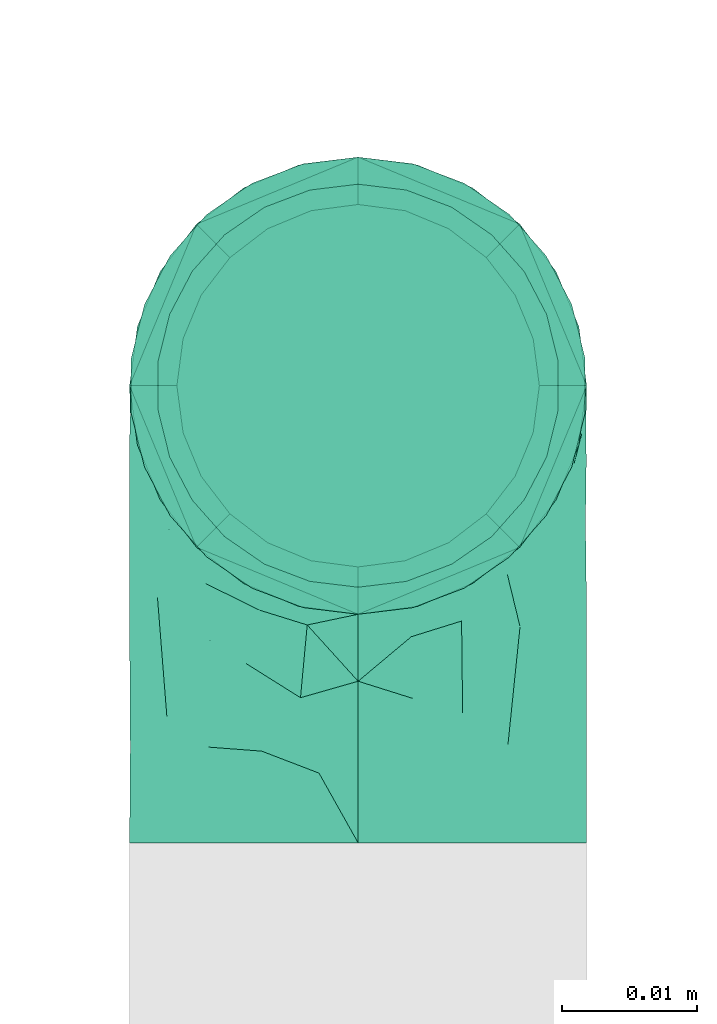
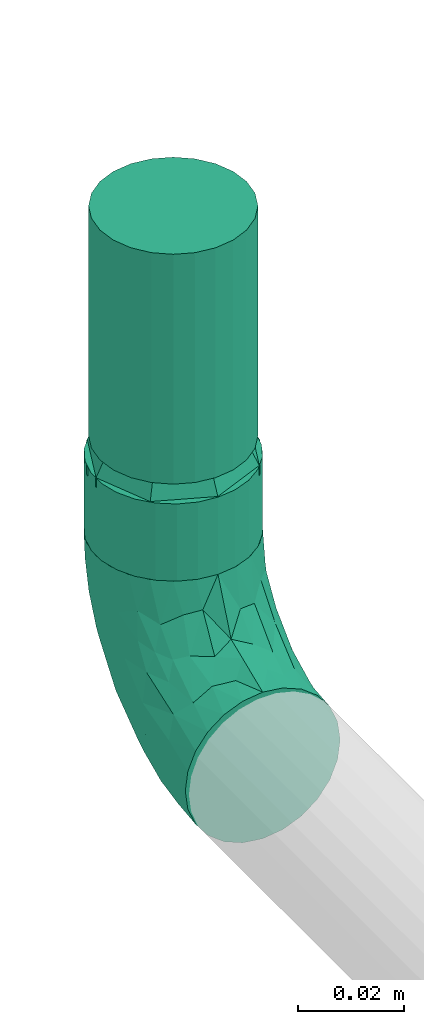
# One storey, part 29 of 45: 2 flow fittings, 1 flow segment, 1 flow terminal.
"""IFC2X3 building model written with IfcOpenShell, lengths in millimetres."""

from ifc_helpers import new_model, entity, si_unit, converted_unit, derived_unit, direction, frame, origin_with_axes, origin_2d_with_axis, place, context, subcontext, project, spatial, hollow_circle, extrude, open_shell, surface_model, source, transform, mapped, type_object, element, save


model = new_model("IFC2X3")

# Units and contexts
model_context = context("Model", 3, precision=0.01, world=frame((0.0, 4.29681676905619e-09, 0.0)), true_north=direction((4.01073788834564e-13, 1.0)))
plan_context = context("Plan", 3, precision=0.01, world=frame((0.0, 4.29681676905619e-09, 0.0)), true_north=direction((4.01073788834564e-13, 1.0)))
body_context = subcontext(model_context, "Body", "Model", "MODEL_VIEW")
ifc_project = project(units=[converted_unit("PLANEANGLEUNIT", "DEGREE", entity("IfcPositiveLengthMeasure", 0.0174532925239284), si_unit("PLANEANGLEUNIT", "RADIAN"), dimensions=[0, 0, 0, 0, 0, 0, 0]), si_unit("AREAUNIT", "SQUARE_METRE"), si_unit("LENGTHUNIT", "METRE", prefix="MILLI"), si_unit("MASSUNIT", "GRAM", prefix="KILO"), si_unit("POWERUNIT", "WATT"), si_unit("PRESSUREUNIT", "PASCAL", prefix="KILO"), si_unit("FORCEUNIT", "NEWTON", prefix="KILO"), si_unit("ELECTRICVOLTAGEUNIT", "VOLT"), si_unit("ELECTRICCURRENTUNIT", "AMPERE"), si_unit("THERMODYNAMICTEMPERATUREUNIT", "DEGREE_CELSIUS"), si_unit("TIMEUNIT", "SECOND"), si_unit("VOLUMEUNIT", "CUBIC_METRE"), derived_unit("LINEARVELOCITYUNIT", [(si_unit("LENGTHUNIT", "METRE"), 1), (si_unit("TIMEUNIT", "SECOND"), -1)]), derived_unit("VOLUMETRICFLOWRATEUNIT", [(si_unit("VOLUMEUNIT", "CUBIC_METRE"), 1), (si_unit("TIMEUNIT", "SECOND"), -1)]), derived_unit("THERMALTRANSMITTANCEUNIT", [(si_unit("POWERUNIT", "WATT"), 1), (si_unit("THERMODYNAMICTEMPERATUREUNIT", "KELVIN"), -1), (si_unit("AREAUNIT", "SQUARE_METRE"), -1)]), derived_unit("SOUNDPRESSUREUNIT", [(si_unit("PRESSUREUNIT", "PASCAL"), 1)])], contexts=[model_context, plan_context])

# Site, building, storey
site_placement = place(None, frame((0.0, -4.29681676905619e-09, 0.0), z_axis=(0.0, 0.0, 1.0), x_axis=(1.0, 0.0, 0.0)))
site = spatial("IfcSite", under=ifc_project, at=site_placement, CompositionType="ELEMENT")
building_placement = place(site_placement, frame((0.0, 4.29681676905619e-09, 0.0), z_axis=(0.0, 0.0, 1.0), x_axis=(1.0, 0.0, 0.0)))
building = spatial("IfcBuilding", under=site, at=building_placement, Name="mc-building", CompositionType="ELEMENT")
storey_placement = place(building_placement, frame((0.0, 0.0, 210200.0), z_axis=(0.0, 0.0, 1.0), x_axis=(1.0, 0.0, 0.0)))
storey = spatial("IfcBuildingStorey", under=building, at=storey_placement, Name="Nivå F - 0,7 m", CompositionType="ELEMENT", Elevation=210200.0)

# Flow fittings
pipe_fitting_type_1 = type_object("IfcPipeFittingType", Name="magi_pipe_fe_elbow_short_001", PredefinedType="BEND")
shared_shape_1 = source(origin_with_axes(), body_context, "Body", "SurfaceModel", [
    surface_model("IfcShellBasedSurfaceModel", [(-33.8, -11.9501, -11.9501), (-33.8, -14.63583, -8.45), (-33.8, -8.45, -14.63583), (-33.8, 0.0, -16.9), (-33.8, -4.37404, -16.32415), (-33.8, -16.32415, -4.37404), (-33.8, -16.9, 0.0), (-33.8, 11.9501, 11.9501), (-33.8, 14.63583, 8.45), (-33.8, 8.45, 14.63583), (-33.8, -11.9501, 11.9501), (-33.8, -8.45, 14.63583), (-33.8, -14.63583, 8.45), (-33.8, -16.32415, 4.37404), (-33.8, -4.37404, 16.32415), (-33.8, 0.0, 16.9), (-33.8, 16.9, 0.0), (-33.8, 16.32415, -4.37404), (-33.8, 16.32415, 4.37404), (-33.8, 4.37404, -16.32415), (-33.8, 8.45, -14.63583), (-33.8, 14.63583, -8.45), (-33.8, 11.9501, -11.9501), (-33.8, 4.37404, 16.32415), (-4.37404, 33.8, -16.32415), (16.9, 33.8, 0.0), (0.0, 33.8, -16.9), (-16.32415, 33.8, -4.37404), (-8.45, 33.8, -14.63583), (-14.63583, 33.8, -8.45), (-11.9501, 33.8, -11.9501), (16.32415, 33.8, 4.37404), (8.45, 33.8, -14.63583), (14.63583, 33.8, -8.45), (11.9501, 33.8, -11.9501), (4.37404, 33.8, -16.32415), (16.32415, 33.8, -4.37404), (-16.32415, 33.8, 4.37404), (-4.37404, 33.8, 16.32415), (-14.63583, 33.8, 8.45), (-8.45, 33.8, 14.63583), (-11.9501, 33.8, 11.9501), (14.63583, 33.8, 8.45), (8.45, 33.8, 14.63583), (11.9501, 33.8, 11.9501), (0.0, 33.8, 16.9), (4.37404, 33.8, 16.32415), (-16.9, 33.8, 0.0), (-24.79389, -13.12945, 9.48721), (-22.19287, -9.75018, 12.59315), (-24.09897, -14.97035, 0.0), (-14.93934, -10.76256, 8.5297), (-22.46095, -14.75051, 5.27077), (14.75051, 22.46094, 5.27077), (11.9251, 13.23888, 4.33236), (13.04069, 14.39795, 0.0), (7.71387, 13.68847, 11.55891), (9.75018, 22.19287, 12.59315), (4.10169, 13.0571, 14.04018), (-24.84007, -6.39063, 15.2048), (-25.81779, -2.23879, 16.61097), (-23.66549, 2.59054, 16.87119), (-26.50418, 14.06512, 11.08152), (-24.21253, 17.66365, 7.72657), (-29.58514, 15.86957, 7.00283), (-6.17382, -7.5455, 0.0), (-13.23888, -11.9251, 4.33236), (-14.39795, -13.04069, 0.0), (-17.81434, 18.87373, 11.97104), (-6.30846, 29.15138, 15.82987), (-2.31622, 25.28002, 16.85849), (-29.23923, 10.23435, 13.77053), (-1.45439, -2.85688, 7.61475), (-0.28326, 0.34872, 10.09509), (-5.74484, -4.04709, 10.4122), (-4.41137, 11.31918, 16.59407), (-8.39727, 3.10034, 15.7812), (-1.72649, 9.1306, 15.53089), (-17.39909, 24.75344, 7.64977), (-26.19233, 20.0512, 0.0), (-28.14518, 17.29657, 4.25857), (-26.05147, 6.6281, 15.96447), (-5.87354, 16.61944, 16.86968), (-12.51807, 12.51807, 16.48937), (-10.06312, 7.38516, 16.81295), (-3.01882, 3.01882, 13.81718), (-13.0571, -4.10169, 14.04018), (-16.82553, -0.15166, 16.38038), (10.76256, 14.93934, 8.5297), (13.12945, 24.79389, 9.48721), (6.39063, 24.84007, 15.2048), (2.23879, 25.81779, 16.61097), (-13.68847, -7.71387, 11.55891), (14.97035, 24.09897, 0.0), (-7.30894, 22.89991, 16.09489), (-10.67958, 26.17414, 14.008), (-12.78295, 18.26924, 15.06066), (-13.88562, 22.45231, 12.93244), (-18.04944, 15.16501, 14.04434), (-23.11658, 20.08178, 4.02986), (-21.84989, 21.84989, 0.0), (-18.55817, 25.48277, 3.93065), (-13.95142, 26.94732, 11.03289), (-18.57098, 7.23906, 16.59756), (-16.58335, 4.14122, 16.89279), (-17.96666, 11.46709, 15.63151), (-9.84453, 17.54304, 16.18938), (0.15166, 16.82553, 16.38038), (-23.27207, 11.47201, 14.23154), (3.84842, 5.86994, 10.70473), (-8.0212, -7.54413, 7.93275), (1.00345, -2.19508, 4.57414), (5.13203, 3.01004, 5.90201), (5.24161, 1.7543, 2.53265), (8.70457, 7.04947, 3.99182), (-20.0512, 26.19233, 0.0), (8.4852, 8.76699, 7.09296), (-4.55488, -6.72064, 4.90681), (2.05031, -2.05031, 0.0), (7.5455, 6.17382, 0.0), (-26.75399, 2.1369, -16.845), (-14.61995, 24.73803, -11.27736), (-28.45274, -13.45335, -9.81895), (-26.00469, 6.63555, -15.96645), (-23.06726, 20.04573, -4.26202), (-13.80647, -4.26506, -14.17873), (-14.67501, -0.21081, -16.07388), (-6.7902, -0.2828, -13.8478), (-24.53586, 11.08096, -14.13417), (-26.72048, 14.00837, -11.05776), (10.0967, 24.44989, -12.75976), (5.83237, 21.40218, -15.03047), (6.66249, 28.54238, -15.38093), (-20.38182, 15.48705, -12.74596), (12.53268, 21.23441, -9.15363), (12.54494, 15.67504, -5.54878), (9.7522, 12.89279, -8.66343), (-15.65186, 19.64213, -13.01327), (-12.03528, 20.66498, -14.67665), (-15.61907, 15.61906, -14.83879), (-25.56551, -15.26206, 0.0), (-24.65452, -15.12934, -5.50955), (13.45335, 28.45274, -9.81895), (15.12934, 24.65452, -5.50955), (-7.35442, -8.31014, -5.65563), (-15.67504, -12.54494, -5.54878), (-24.44989, -10.0967, -12.75976), (0.16522, 0.41303, -9.71728), (-5.70658, -5.33066, -8.89288), (-5.13869, -2.37198, -11.53565), (-21.23441, -12.53268, -9.15363), (0.71146, 7.93863, -14.09382), (0.21081, 14.67501, -16.07388), (3.49291, 14.42772, -14.76381), (-24.89911, -2.13088, -16.591), (-28.54238, -6.66249, -15.38093), (-18.44386, -7.71663, -13.26957), (2.13088, 24.89911, -16.591), (-28.64342, 17.44413, -2.89318), (1.70017, -1.28722, -5.09504), (-16.57067, 26.81947, -7.36596), (-17.69055, 27.4263, -3.76405), (-12.89279, -9.7522, -8.66343), (-5.96611, 5.96611, -15.95814), (-20.53709, 20.09345, -8.28985), (-2.1369, 26.75399, -16.845), (-6.89872, 24.58781, -16.02578), (-10.60739, 26.53157, -13.98044), (-21.40218, -5.83237, -15.03047), (2.93192, 5.89627, -11.55917), (6.89393, 12.61842, -11.82233), (5.58056, 5.95325, -8.79455), (-3.99512, 18.61798, -16.89635), (8.31014, 7.35442, -5.65563), (-9.1383, 9.86148, -16.89041), (-9.99983, 16.02119, -16.39699), (-16.68576, 9.78031, -16.34199), (-27.01915, 16.61158, -7.12979), (15.26206, 25.56551, 0.0), (-18.61798, 3.99512, -16.89635), (-19.37495, 27.82495, 0.0), (-12.61842, -6.89393, -11.82233), (-18.84705, 19.14018, -10.96545)], [open_shell([[[0, 1, 2]], [[3, 4, 2]], [[5, 6, 1]], [[7, 8, 9]], [[10, 11, 12]], [[13, 12, 11]], [[14, 15, 11]], [[16, 17, 18]], [[3, 6, 19]], [[20, 19, 17]], [[20, 17, 21]], [[22, 20, 21]], [[17, 19, 6]], [[2, 1, 6]], [[2, 6, 3]], [[6, 18, 17]], [[23, 18, 6]], [[8, 18, 23]], [[8, 23, 9]], [[13, 23, 6]], [[23, 13, 11]], [[11, 15, 23]], [[24, 25, 26]], [[27, 24, 28]], [[29, 27, 28]], [[29, 28, 30]], [[31, 25, 24]], [[32, 33, 34]], [[32, 35, 26]], [[33, 25, 36]], [[33, 32, 26]], [[25, 33, 26]], [[24, 27, 37]], [[31, 24, 37]], [[38, 37, 39]], [[40, 38, 39]], [[40, 39, 41]], [[31, 37, 38]], [[42, 43, 44]], [[43, 42, 31]], [[43, 45, 46]], [[43, 31, 38]], [[38, 45, 43]], [[37, 27, 47]], [[10, 48, 49]], [[13, 6, 50]], [[51, 48, 52]], [[53, 54, 55]], [[48, 10, 12]], [[13, 52, 12]], [[56, 57, 58]], [[49, 11, 10]], [[49, 59, 11]], [[15, 60, 61]], [[62, 63, 64]], [[65, 66, 67]], [[57, 44, 43]], [[62, 68, 63]], [[38, 69, 70]], [[9, 71, 7]], [[14, 60, 15]], [[72, 73, 74]], [[75, 76, 77]], [[7, 62, 8]], [[39, 37, 78]], [[79, 16, 80]], [[64, 18, 8]], [[15, 61, 23]], [[23, 81, 9]], [[82, 83, 84]], [[74, 85, 86]], [[59, 86, 87]], [[88, 89, 57]], [[90, 43, 46]], [[42, 53, 31]], [[46, 45, 91]], [[54, 53, 88]], [[42, 89, 53]], [[92, 86, 49]], [[89, 42, 44]], [[11, 59, 14]], [[53, 55, 93]], [[93, 31, 53]], [[66, 52, 67]], [[94, 82, 70]], [[95, 96, 94]], [[97, 98, 96]], [[79, 99, 100]], [[40, 41, 95]], [[101, 100, 99]], [[68, 78, 63]], [[38, 40, 69]], [[16, 18, 80]], [[95, 94, 69]], [[78, 101, 99]], [[41, 102, 95]], [[70, 45, 38]], [[97, 95, 102]], [[13, 50, 52]], [[90, 57, 43]], [[57, 90, 58]], [[81, 23, 61]], [[103, 104, 84]], [[105, 81, 103]], [[41, 39, 102]], [[106, 96, 83]], [[94, 106, 82]], [[91, 70, 107]], [[71, 62, 7]], [[62, 108, 98]], [[86, 59, 49]], [[67, 52, 50]], [[60, 59, 87]], [[92, 49, 51]], [[86, 85, 76]], [[91, 90, 46]], [[25, 31, 93]], [[107, 77, 58]], [[107, 58, 90]], [[58, 85, 109]], [[110, 74, 92]], [[72, 74, 110]], [[66, 51, 52]], [[72, 111, 112]], [[113, 114, 112]], [[56, 88, 57]], [[52, 48, 12]], [[49, 48, 51]], [[57, 89, 44]], [[53, 89, 88]], [[103, 81, 61]], [[71, 81, 108]], [[18, 64, 80]], [[63, 78, 99]], [[47, 115, 101]], [[101, 115, 100]], [[39, 78, 102]], [[68, 102, 78]], [[97, 96, 95]], [[105, 98, 108]], [[103, 84, 83]], [[107, 70, 82]], [[76, 84, 87]], [[82, 84, 75]], [[70, 91, 45]], [[90, 91, 107]], [[59, 60, 14]], [[61, 60, 87]], [[73, 85, 74]], [[109, 112, 116]], [[103, 61, 104]], [[105, 103, 83]], [[96, 105, 83]], [[81, 105, 108]], [[96, 98, 105]], [[62, 98, 68]], [[61, 87, 104]], [[87, 84, 104]], [[86, 76, 87]], [[77, 76, 85]], [[58, 77, 85]], [[75, 77, 107]], [[82, 75, 107]], [[76, 75, 84]], [[81, 71, 9]], [[62, 71, 108]], [[95, 69, 40]], [[70, 69, 94]], [[62, 64, 8]], [[80, 63, 99]], [[63, 80, 64]], [[80, 99, 79]], [[66, 65, 117]], [[110, 66, 117]], [[112, 114, 116]], [[118, 117, 65]], [[110, 92, 51]], [[112, 111, 113]], [[119, 55, 54]], [[74, 86, 92]], [[58, 109, 56]], [[116, 56, 109]], [[66, 110, 51]], [[72, 110, 117]], [[111, 72, 117]], [[73, 112, 109]], [[117, 118, 111]], [[113, 111, 118]], [[118, 119, 113]], [[114, 119, 54]], [[119, 114, 113]], [[116, 54, 88]], [[54, 116, 114]], [[116, 88, 56]], [[112, 73, 72]], [[85, 73, 109]], [[78, 37, 101]], [[47, 101, 37]], [[102, 68, 97]], [[97, 68, 98]], [[82, 106, 83]], [[94, 96, 106]], [[19, 120, 3]], [[29, 30, 121]], [[0, 122, 1]], [[20, 123, 19]], [[100, 124, 79]], [[125, 126, 127]], [[128, 22, 129]], [[130, 131, 132]], [[128, 129, 133]], [[134, 135, 136]], [[137, 138, 139]], [[128, 20, 22]], [[67, 140, 141]], [[134, 142, 143]], [[141, 5, 1]], [[144, 65, 145]], [[146, 0, 2]], [[147, 148, 149]], [[145, 141, 150]], [[151, 152, 153]], [[154, 4, 3]], [[2, 155, 146]], [[150, 146, 156]], [[155, 2, 4]], [[143, 135, 134]], [[35, 157, 26]], [[16, 79, 158]], [[148, 159, 144]], [[160, 161, 27]], [[145, 162, 144]], [[163, 152, 151]], [[27, 29, 160]], [[121, 164, 160]], [[32, 34, 130]], [[26, 165, 24]], [[24, 165, 166]], [[142, 34, 33]], [[30, 28, 167]], [[124, 161, 164]], [[157, 35, 132]], [[155, 154, 168]], [[123, 20, 128]], [[169, 170, 171]], [[172, 157, 152]], [[24, 166, 28]], [[132, 35, 32]], [[142, 130, 34]], [[168, 154, 126]], [[136, 135, 173]], [[133, 137, 139]], [[22, 21, 129]], [[170, 131, 130]], [[33, 36, 143]], [[172, 174, 175]], [[176, 123, 128]], [[158, 177, 17]], [[135, 55, 119]], [[167, 28, 166]], [[175, 166, 172]], [[137, 167, 138]], [[122, 141, 1]], [[140, 6, 5]], [[36, 25, 178]], [[170, 130, 134]], [[152, 157, 131]], [[165, 157, 172]], [[153, 170, 151]], [[152, 163, 174]], [[168, 125, 156]], [[122, 146, 150]], [[120, 154, 3]], [[179, 174, 126]], [[179, 126, 154]], [[126, 163, 127]], [[162, 145, 150]], [[140, 5, 141]], [[36, 178, 143]], [[55, 143, 178]], [[177, 129, 21]], [[128, 133, 139]], [[176, 128, 139]], [[120, 123, 179]], [[121, 160, 29]], [[161, 100, 180]], [[166, 175, 138]], [[121, 30, 167]], [[161, 47, 27]], [[79, 124, 158]], [[124, 164, 177]], [[161, 124, 100]], [[136, 171, 170]], [[127, 163, 151]], [[147, 171, 159]], [[148, 144, 162]], [[127, 151, 169]], [[127, 181, 125]], [[129, 177, 164]], [[21, 17, 177]], [[159, 65, 144]], [[67, 141, 145]], [[143, 55, 135]], [[135, 119, 173]], [[123, 120, 19]], [[154, 120, 179]], [[157, 165, 26]], [[166, 165, 172]], [[172, 152, 174]], [[176, 139, 175]], [[126, 174, 163]], [[176, 174, 179]], [[174, 176, 175]], [[123, 176, 179]], [[150, 181, 162]], [[127, 149, 181]], [[181, 148, 162]], [[159, 148, 147]], [[171, 136, 173]], [[170, 134, 136]], [[159, 171, 173]], [[171, 147, 169]], [[169, 147, 149]], [[151, 170, 169]], [[164, 182, 129]], [[182, 121, 137]], [[181, 149, 148]], [[169, 149, 127]], [[182, 137, 133]], [[167, 137, 121]], [[166, 138, 167]], [[175, 139, 138]], [[129, 182, 133]], [[121, 182, 164]], [[161, 160, 164]], [[47, 161, 180]], [[177, 158, 124]], [[16, 158, 17]], [[130, 132, 32]], [[157, 132, 131]], [[143, 142, 33]], [[130, 142, 134]], [[154, 155, 4]], [[146, 155, 168]], [[146, 122, 0]], [[141, 122, 150]], [[152, 131, 153]], [[159, 119, 118]], [[67, 145, 65]], [[170, 153, 131]], [[119, 159, 173]], [[159, 118, 65]], [[156, 125, 181]], [[126, 125, 168]], [[150, 156, 181]], [[168, 156, 146]]])]),
])
flow_fitting_1_placement = place(storey_placement, frame((335657.5, 466176.80156, 2810.44542), z_axis=(1.0, 0.0, 0.0), x_axis=(0.0, 1.0, 0.0)))
element("IfcFlowFitting", 1, at=flow_fitting_1_placement, inside=storey, type_object=pipe_fitting_type_1, Name="magi_pipe_fe_elbow_short_001", context=body_context, shape_type="MappedRepresentation", body=[
    mapped(shared_shape_1, transform((0.0, 0.0, 0.0), scale=1.0)),
])
pipe_fitting_type_2 = type_object("IfcPipeFittingType", Name="magi_pipe_fe_reducer_centric_short_001", PredefinedType="TRANSITION")
shared_shape_2 = source(origin_with_axes(), body_context, "Body", "SurfaceModel", [
    surface_model("IfcShellBasedSurfaceModel", [(9.0, 4.37404, -16.32415), (9.0, 8.45, -14.63583), (9.0, 11.9501, -11.9501), (9.0, 0.0, -16.9), (9.0, 16.32415, -4.37404), (9.0, 16.32415, 4.37404), (9.0, 14.63583, -8.45), (9.0, -8.45, -14.63583), (9.0, -4.37404, -16.32415), (9.0, -11.9501, -11.9501), (9.0, -16.32415, -4.37404), (9.0, -14.63583, -8.45), (9.0, -16.32415, 4.37404), (9.0, 16.9, 0.0), (9.0, 14.63583, 8.45), (9.0, 11.9501, 11.9501), (9.0, 4.37404, 16.32415), (9.0, 0.0, 16.9), (9.0, 8.45, 14.63583), (9.0, -14.63583, 8.45), (9.0, -16.9, 0.0), (9.0, -8.45, 14.63583), (9.0, -11.9501, 11.9501), (9.0, -4.37404, 16.32415), (7.0, 4.37404, 16.32415), (7.0, -14.63583, 8.45), (7.0, 0.0, 16.9), (7.0, 16.32415, 4.37404), (7.0, 8.45, 14.63583), (7.0, 11.9501, 11.9501), (7.0, 14.63583, 8.45), (7.0, -8.45, 14.63583), (7.0, -11.9501, 11.9501), (7.0, -4.37404, 16.32415), (7.0, -16.32415, 4.37404), (7.0, -16.32415, -4.37404), (7.0, -16.9, 0.0), (7.0, -8.45, -14.63583), (7.0, 16.32415, -4.37404), (7.0, 11.9501, -11.9501), (7.0, 14.63583, -8.45), (7.0, 8.45, -14.63583), (7.0, 4.37404, -16.32415), (7.0, 0.0, -16.9), (7.0, -11.9501, -11.9501), (7.0, -14.63583, -8.45), (7.0, -4.37404, -16.32415), (7.0, 16.9, 0.0), (-2.0, -9.47523, 9.47523), (-2.0, 0.0, 13.4), (-2.0, 3.46818, 12.94341), (-2.0, 6.7, 11.60474), (-2.0, 9.47523, 9.47523), (-2.0, 11.60474, 6.7), (-2.0, 12.94341, 3.46818), (-2.0, -3.46818, 12.94341), (-2.0, -6.7, 11.60474), (-2.0, -12.94341, 3.46818), (-2.0, -11.60474, 6.7), (-2.0, -6.7, -11.60474), (-2.0, -12.94341, -3.46818), (-2.0, -13.4, 0.0), (-2.0, 12.94341, -3.46818), (-2.0, 6.7, -11.60474), (-2.0, 9.47523, -9.47523), (-2.0, 11.60474, -6.7), (-2.0, 3.46818, -12.94341), (-2.0, 0.0, -13.4), (-2.0, -9.47523, -9.47523), (-2.0, -11.60474, -6.7), (-2.0, -3.46818, -12.94341), (-2.0, 13.4, 0.0), (0.0, 12.94341, -3.46818), (0.0, 3.46818, -12.94341), (0.0, 6.7, -11.60474), (0.0, 11.60474, -6.7), (0.0, 9.47523, -9.47523), (0.0, -6.7, -11.60474), (0.0, -12.94341, 3.46818), (0.0, -3.46818, -12.94341), (0.0, 0.0, -13.4), (0.0, -9.47523, -9.47523), (0.0, -12.94341, -3.46818), (0.0, -11.60474, -6.7), (0.0, 13.4, 0.0), (0.0, 12.94341, 3.46818), (0.0, 11.60474, 6.7), (0.0, 9.47523, 9.47523), (0.0, 0.0, 13.4), (0.0, 6.7, 11.60474), (0.0, 3.46818, 12.94341), (0.0, -9.47523, 9.47523), (0.0, -11.60474, 6.7), (0.0, -13.4, 0.0), (0.0, -3.46818, 12.94341), (0.0, -6.7, 11.60474), (7.0, -14.51228, -5.76448), (0.0, -11.43761, -4.73762), (7.0, -13.23119, -8.85729), (0.0, -10.45642, -7.10642), (0.0, -12.41881, -2.36881), (7.0, -15.70614, -2.88224), (0.0, -2.36881, -12.41881), (7.0, -5.97505, -14.42505), (0.0, -7.10642, -10.45642), (0.0, -4.73762, -11.43761), (7.0, -2.98753, -15.66253), (7.0, -8.96258, -13.18758), (7.0, 2.98753, -15.66253), (0.0, 2.36881, -12.41881), (0.0, 12.45339, -2.28533), (7.0, 13.18758, -8.96258), (0.0, 10.45642, -7.10642), (7.0, 14.42505, -5.97505), (0.0, 11.43761, -4.73762), (0.0, 7.10642, -10.45642), (7.0, 8.96258, -13.18758), (7.0, 15.66253, -2.98753), (0.0, 4.73762, -11.43761), (7.0, 5.97505, -14.42505), (7.0, 14.51228, 5.76448), (0.0, 11.43761, 4.73762), (7.0, 13.23119, 8.85729), (0.0, 10.45642, 7.10642), (0.0, 12.41881, 2.36881), (7.0, 15.70614, 2.88224), (0.0, 2.36881, 12.41881), (7.0, 5.97505, 14.42505), (0.0, 7.10642, 10.45642), (0.0, 4.73762, 11.43761), (7.0, 2.98753, 15.66253), (7.0, 8.96258, 13.18758), (7.0, -2.98753, 15.66253), (0.0, -2.36881, 12.41881), (0.0, -12.45339, 2.28533), (7.0, -13.18758, 8.96258), (0.0, -10.45642, 7.10642), (7.0, -14.42505, 5.97505), (0.0, -11.43761, 4.73762), (0.0, -7.10642, 10.45642), (7.0, -8.96258, 13.18758), (7.0, -15.66253, 2.98753), (0.0, -4.73762, 11.43761), (7.0, -5.97505, 14.42505)], [open_shell([[[0, 1, 2]], [[3, 0, 2]], [[2, 4, 5]], [[4, 2, 6]], [[2, 5, 7]], [[3, 7, 8]], [[3, 2, 7]], [[9, 10, 11]], [[10, 9, 7]], [[7, 12, 10]], [[5, 4, 13]], [[5, 14, 15]], [[5, 15, 16]], [[16, 17, 5]], [[16, 15, 18]], [[5, 17, 19]], [[5, 19, 12]], [[20, 10, 12]], [[19, 21, 22]], [[19, 17, 21]], [[21, 17, 23]], [[12, 7, 5]], [[24, 25, 26]], [[27, 24, 28]], [[29, 30, 27]], [[29, 27, 28]], [[25, 24, 27]], [[31, 25, 32]], [[25, 31, 33]], [[26, 25, 33]], [[27, 34, 25]], [[34, 35, 36]], [[34, 27, 37]], [[27, 38, 39]], [[39, 38, 40]], [[39, 41, 42]], [[37, 27, 39]], [[42, 43, 39]], [[35, 44, 45]], [[44, 35, 37]], [[37, 43, 46]], [[35, 34, 37]], [[39, 43, 37]], [[38, 27, 47]], [[35, 10, 36]], [[45, 11, 35]], [[7, 44, 37]], [[45, 44, 9]], [[8, 37, 46]], [[35, 11, 10]], [[10, 20, 36]], [[8, 7, 37]], [[9, 44, 7]], [[9, 11, 45]], [[3, 8, 46]], [[46, 43, 3]], [[42, 0, 43]], [[41, 1, 42]], [[6, 39, 40]], [[41, 39, 2]], [[4, 40, 38]], [[41, 2, 1]], [[1, 0, 42]], [[13, 4, 38]], [[6, 40, 4]], [[6, 2, 39]], [[47, 13, 38]], [[43, 0, 3]], [[27, 5, 47]], [[30, 14, 27]], [[18, 29, 28]], [[30, 29, 15]], [[16, 28, 24]], [[27, 14, 5]], [[5, 13, 47]], [[16, 18, 28]], [[15, 29, 18]], [[15, 14, 30]], [[17, 16, 24]], [[24, 26, 17]], [[33, 23, 26]], [[31, 21, 33]], [[19, 32, 25]], [[31, 32, 22]], [[12, 25, 34]], [[31, 22, 21]], [[21, 23, 33]], [[20, 12, 34]], [[19, 25, 12]], [[19, 22, 32]], [[36, 20, 34]], [[26, 23, 17]], [[48, 49, 50]], [[51, 48, 50]], [[52, 53, 54]], [[52, 54, 51]], [[48, 51, 54]], [[55, 48, 56]], [[55, 49, 48]], [[48, 57, 58]], [[48, 59, 57]], [[57, 60, 61]], [[62, 48, 54]], [[48, 62, 63]], [[64, 62, 65]], [[66, 48, 63]], [[63, 62, 64]], [[66, 67, 48]], [[60, 68, 69]], [[60, 57, 68]], [[70, 59, 48]], [[57, 59, 68]], [[70, 48, 67]], [[71, 62, 54]], [[72, 73, 74]], [[75, 74, 76]], [[77, 73, 78]], [[72, 74, 75]], [[73, 72, 78]], [[73, 79, 80]], [[73, 77, 79]], [[81, 82, 83]], [[78, 82, 81]], [[81, 77, 78]], [[72, 84, 78]], [[85, 86, 87]], [[85, 87, 88]], [[89, 90, 88]], [[89, 88, 87]], [[85, 88, 91]], [[78, 91, 92]], [[93, 82, 78]], [[91, 94, 95]], [[91, 78, 85]], [[94, 91, 88]], [[78, 84, 85]], [[60, 82, 61]], [[69, 83, 60]], [[77, 68, 59]], [[69, 68, 81]], [[79, 59, 70]], [[60, 83, 82]], [[82, 93, 61]], [[79, 77, 59]], [[81, 68, 77]], [[81, 83, 69]], [[80, 79, 70]], [[70, 67, 80]], [[66, 73, 67]], [[63, 74, 66]], [[75, 64, 65]], [[63, 64, 76]], [[72, 65, 62]], [[63, 76, 74]], [[74, 73, 66]], [[84, 72, 62]], [[75, 65, 72]], [[75, 76, 64]], [[71, 84, 62]], [[67, 73, 80]], [[54, 85, 71]], [[53, 86, 54]], [[89, 52, 51]], [[53, 52, 87]], [[90, 51, 50]], [[54, 86, 85]], [[85, 84, 71]], [[90, 89, 51]], [[87, 52, 89]], [[87, 86, 53]], [[88, 90, 50]], [[50, 49, 88]], [[55, 94, 49]], [[56, 95, 55]], [[92, 48, 58]], [[56, 48, 91]], [[78, 58, 57]], [[56, 91, 95]], [[95, 94, 55]], [[93, 78, 57]], [[92, 58, 78]], [[92, 91, 48]], [[61, 93, 57]], [[49, 94, 88]], [[36, 29, 26]], [[39, 47, 29]], [[26, 32, 36]], [[36, 44, 43]], [[43, 39, 36]], [[36, 39, 29]], [[81, 91, 88]], [[81, 93, 91]], [[88, 87, 84]], [[84, 76, 81]], [[80, 81, 76]], [[84, 81, 88]], [[96, 97, 98]], [[81, 44, 99]], [[100, 96, 101]], [[102, 80, 43]], [[103, 104, 105]], [[102, 43, 106]], [[107, 81, 104]], [[108, 80, 109]], [[110, 84, 47]], [[93, 101, 36]], [[108, 43, 80]], [[111, 76, 112]], [[113, 112, 114]], [[115, 39, 116]], [[110, 47, 117]], [[99, 98, 97]], [[117, 113, 114]], [[106, 103, 105]], [[118, 116, 119]], [[109, 118, 119]], [[96, 100, 97]], [[93, 100, 101]], [[99, 44, 98]], [[104, 103, 107]], [[107, 44, 81]], [[106, 105, 102]], [[112, 113, 111]], [[111, 39, 76]], [[117, 114, 110]], [[116, 118, 115]], [[115, 76, 39]], [[109, 119, 108]], [[120, 121, 122]], [[87, 29, 123]], [[124, 120, 125]], [[126, 88, 26]], [[127, 128, 129]], [[126, 26, 130]], [[131, 87, 128]], [[132, 88, 133]], [[134, 93, 36]], [[84, 125, 47]], [[132, 26, 88]], [[135, 91, 136]], [[137, 136, 138]], [[139, 32, 140]], [[134, 36, 141]], [[123, 122, 121]], [[141, 137, 138]], [[130, 127, 129]], [[142, 140, 143]], [[133, 142, 143]], [[120, 124, 121]], [[84, 124, 125]], [[123, 29, 122]], [[128, 127, 131]], [[131, 29, 87]], [[130, 129, 126]], [[136, 137, 135]], [[135, 32, 91]], [[141, 138, 134]], [[140, 142, 139]], [[139, 91, 32]], [[133, 143, 132]]])]),
])
flow_fitting_2_placement = place(storey_placement, frame((335657.5, 466176.80156, 2869.04800000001), z_axis=(1.0, 0.0, 0.0), x_axis=(0.0, 0.0, -1.0)))
element("IfcFlowFitting", 2, at=flow_fitting_2_placement, inside=storey, type_object=pipe_fitting_type_2, Name="magi_pipe_fe_reducer_centric_short_001", context=body_context, shape_type="MappedRepresentation", body=[
    mapped(shared_shape_2, transform((0.0, 0.0, 0.0), scale=1.0)),
])

# Flow segment
pipe_segment_type = type_object("IfcPipeSegmentType", Name="Stålrør normaltykke", PredefinedType="RIGIDSEGMENT")
shared_shape_3 = source(origin_with_axes(), body_context, "Body", "SweptSolid", [
    extrude(hollow_circle(Radius=16.9, WallThickness=2.0, at=origin_2d_with_axis()), frame((0.0, 0.0, 0.0), z_axis=(1.0, 0.0, 0.0), x_axis=(0.0, 1.0, 0.0)), (0.0, 0.0, 1.0), 17.8),
])
flow_segment_placement = place(storey_placement, frame((335657.5, 466176.80156, 2844.24541999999), z_axis=(1.0, 0.0, 0.0), x_axis=(0.0, 0.0, 1.0)))
element("IfcFlowSegment", 3, at=flow_segment_placement, inside=storey, type_object=pipe_segment_type, Name="Stålrør normaltykke", context=body_context, shape_type="MappedRepresentation", body=[
    mapped(shared_shape_3, transform((0.0, 0.0, 0.0), scale=1.0)),
])

# Flow terminal
fire_suppression_terminal_type = type_object("IfcFireSuppressionTerminalType", Name="SP-15-K80-68DGR-STD", PredefinedType="NOTDEFINED")
shared_shape_4 = source(origin_with_axes(), body_context, "Body", "SurfaceModel", [
    surface_model("IfcShellBasedSurfaceModel", [(4.1411, -15.45481, 53.0), (8.0, -13.85641, 53.0), (11.31371, -11.31371, 53.0), (-8.0, -13.85641, 53.0), (15.45481, -4.1411, 53.0), (16.0, 0.0, 53.0), (13.85641, -8.0, 53.0), (0.0, -16.0, 53.0), (-4.1411, -15.45481, 53.0), (-13.85641, -8.0, 53.0), (-11.31371, -11.31371, 53.0), (-15.45481, -4.1411, 53.0), (15.45481, 4.1411, 53.0), (13.85641, 8.0, 53.0), (11.31371, 11.31371, 53.0), (-4.1411, 15.45481, 53.0), (8.0, 13.85641, 53.0), (4.1411, 15.45481, 53.0), (0.0, 16.0, 53.0), (-13.85641, 8.0, 53.0), (-15.45481, 4.1411, 53.0), (-16.0, 0.0, 53.0), (-11.31371, 11.31371, 53.0), (-8.0, 13.85641, 53.0), (0.0, 16.0, 0.0), (4.1411, 15.45481, 0.0), (8.0, 13.85641, 0.0), (-4.1411, 15.45481, 0.0), (11.31371, 11.31371, 0.0), (13.85641, 8.0, 0.0), (15.45481, 4.1411, 0.0), (-15.45481, -4.1411, 0.0), (-11.31371, 11.31371, 0.0), (-8.0, 13.85641, 0.0), (-13.85641, 8.0, 0.0), (-15.45481, 4.1411, 0.0), (-16.0, 0.0, 0.0), (4.1411, -15.45481, 0.0), (16.0, 0.0, 0.0), (15.45481, -4.1411, 0.0), (13.85641, -8.0, 0.0), (11.31371, -11.31371, 0.0), (8.0, -13.85641, 0.0), (-8.0, -13.85641, 0.0), (-13.85641, -8.0, 0.0), (-11.31371, -11.31371, 0.0), (0.0, -16.0, 0.0), (-4.1411, -15.45481, 0.0)], [open_shell([[[0, 1, 2]], [[3, 0, 2]], [[4, 5, 2]], [[4, 2, 6]], [[3, 2, 5]], [[7, 3, 8]], [[7, 0, 3]], [[3, 9, 10]], [[9, 3, 11]], [[5, 11, 3]], [[5, 12, 11]], [[12, 13, 14]], [[15, 12, 14]], [[16, 17, 18]], [[14, 16, 15]], [[18, 15, 16]], [[11, 19, 20]], [[21, 11, 20]], [[22, 15, 23]], [[15, 22, 19]], [[19, 11, 15]], [[11, 12, 15]], [[24, 25, 26]], [[27, 24, 26]], [[28, 29, 30]], [[27, 26, 28]], [[27, 28, 31]], [[27, 32, 33]], [[32, 27, 34]], [[34, 31, 35]], [[31, 34, 27]], [[35, 31, 36]], [[28, 30, 31]], [[37, 38, 39]], [[37, 39, 40]], [[41, 42, 37]], [[41, 37, 40]], [[38, 37, 43]], [[44, 43, 45]], [[43, 44, 31]], [[43, 46, 47]], [[43, 31, 38]], [[37, 46, 43]], [[38, 31, 30]], [[11, 31, 44]], [[45, 9, 44]], [[3, 43, 47]], [[45, 43, 10]], [[8, 47, 46]], [[31, 21, 36]], [[31, 11, 21]], [[44, 9, 11]], [[45, 10, 9]], [[3, 10, 43]], [[47, 8, 3]], [[46, 7, 8]], [[0, 37, 42]], [[41, 1, 42]], [[6, 40, 39]], [[41, 40, 2]], [[4, 39, 38]], [[37, 0, 7]], [[42, 1, 0]], [[41, 2, 1]], [[40, 6, 2]], [[4, 6, 39]], [[38, 5, 4]], [[37, 7, 46]], [[12, 38, 30]], [[13, 30, 29]], [[16, 26, 25]], [[17, 25, 24]], [[30, 13, 12]], [[12, 5, 38]], [[28, 14, 13]], [[28, 26, 14]], [[14, 26, 16]], [[25, 17, 16]], [[28, 13, 29]], [[24, 18, 17]], [[15, 27, 33]], [[32, 23, 33]], [[19, 34, 35]], [[32, 34, 22]], [[20, 35, 36]], [[27, 15, 18]], [[33, 23, 15]], [[32, 22, 23]], [[34, 19, 22]], [[20, 19, 35]], [[36, 21, 20]], [[27, 18, 24]]])]),
])
flow_terminal_placement = place(storey_placement, frame((335657.5, 466176.80156, 2866.0), z_axis=(0.0, 0.0, 1.0), x_axis=(1.0, 0.0, 0.0)))
element("IfcFlowTerminal", 4, at=flow_terminal_placement, inside=storey, type_object=fire_suppression_terminal_type, Name="SP-15-K80-68DGR-STD", context=body_context, shape_type="MappedRepresentation", body=[
    mapped(shared_shape_4, transform((0.0, 0.0, 0.0), scale=1.0)),
])

save(model, "model.ifc")
